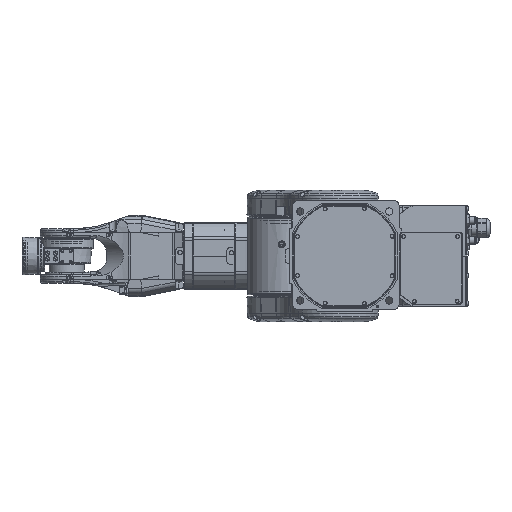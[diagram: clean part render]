
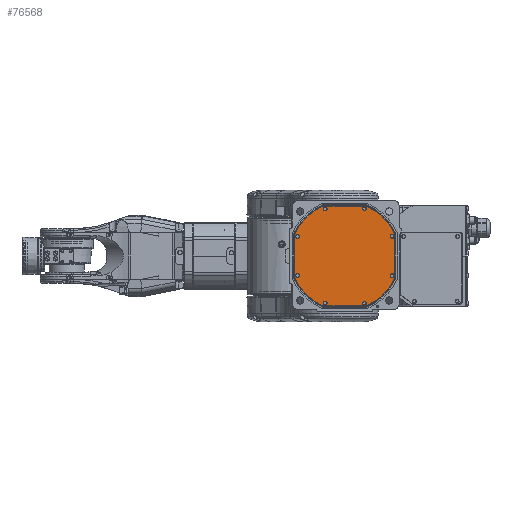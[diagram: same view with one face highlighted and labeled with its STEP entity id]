
A CAD part, front view. The second image highlights one B-rep face of the part: STEP entity #76568.
In plain terms, the highlighted planar face has unit normal (0, -1, 0).
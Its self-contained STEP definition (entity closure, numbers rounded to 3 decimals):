
#2304=CIRCLE('',#80409,4.7);
#2305=CIRCLE('',#80412,4.7);
#2306=CIRCLE('',#80414,97.7);
#2307=CIRCLE('',#80416,4.7);
#2308=CIRCLE('',#80419,4.7);
#2309=CIRCLE('',#80421,97.7);
#2310=CIRCLE('',#80423,4.7);
#2311=CIRCLE('',#80426,4.7);
#2312=CIRCLE('',#80428,97.7);
#2313=CIRCLE('',#80430,4.7);
#2314=CIRCLE('',#80433,4.7);
#2315=CIRCLE('',#80435,97.7);
#2316=CIRCLE('',#80437,3.4);
#2317=CIRCLE('',#80438,3.4);
#2318=CIRCLE('',#80439,3.4);
#2319=CIRCLE('',#80440,3.4);
#2320=CIRCLE('',#80441,3.4);
#2321=CIRCLE('',#80442,3.4);
#2322=CIRCLE('',#80443,3.4);
#2323=CIRCLE('',#80444,3.4);
#7452=ORIENTED_EDGE('',*,*,#22142,.F.);
#7453=ORIENTED_EDGE('',*,*,#22143,.F.);
#7454=ORIENTED_EDGE('',*,*,#22144,.F.);
#7455=ORIENTED_EDGE('',*,*,#22145,.F.);
#7456=ORIENTED_EDGE('',*,*,#22146,.F.);
#7457=ORIENTED_EDGE('',*,*,#22147,.F.);
#7458=ORIENTED_EDGE('',*,*,#22148,.F.);
#7459=ORIENTED_EDGE('',*,*,#22149,.F.);
#7460=ORIENTED_EDGE('',*,*,#22111,.F.);
#7461=ORIENTED_EDGE('',*,*,#22141,.F.);
#7462=ORIENTED_EDGE('',*,*,#22139,.F.);
#7463=ORIENTED_EDGE('',*,*,#22137,.F.);
#7464=ORIENTED_EDGE('',*,*,#22135,.F.);
#7465=ORIENTED_EDGE('',*,*,#22133,.F.);
#7466=ORIENTED_EDGE('',*,*,#22131,.F.);
#7467=ORIENTED_EDGE('',*,*,#22129,.F.);
#7468=ORIENTED_EDGE('',*,*,#22127,.F.);
#7469=ORIENTED_EDGE('',*,*,#22125,.F.);
#7470=ORIENTED_EDGE('',*,*,#22123,.F.);
#7471=ORIENTED_EDGE('',*,*,#22121,.F.);
#7472=ORIENTED_EDGE('',*,*,#22119,.F.);
#7473=ORIENTED_EDGE('',*,*,#22117,.F.);
#7474=ORIENTED_EDGE('',*,*,#22115,.F.);
#7475=ORIENTED_EDGE('',*,*,#22113,.F.);
#22111=EDGE_CURVE('',#29604,#29605,#2304,.T.);
#22113=EDGE_CURVE('',#29605,#29606,#34826,.T.);
#22115=EDGE_CURVE('',#29606,#29607,#2305,.T.);
#22117=EDGE_CURVE('',#29607,#29608,#2306,.T.);
#22119=EDGE_CURVE('',#29608,#29609,#2307,.T.);
#22121=EDGE_CURVE('',#29609,#29610,#34831,.T.);
#22123=EDGE_CURVE('',#29610,#29611,#2308,.T.);
#22125=EDGE_CURVE('',#29611,#29612,#2309,.T.);
#22127=EDGE_CURVE('',#29612,#29613,#2310,.T.);
#22129=EDGE_CURVE('',#29613,#29614,#34836,.T.);
#22131=EDGE_CURVE('',#29614,#29615,#2311,.T.);
#22133=EDGE_CURVE('',#29615,#29616,#2312,.T.);
#22135=EDGE_CURVE('',#29616,#29617,#2313,.T.);
#22137=EDGE_CURVE('',#29617,#29618,#34841,.T.);
#22139=EDGE_CURVE('',#29618,#29619,#2314,.T.);
#22141=EDGE_CURVE('',#29619,#29604,#2315,.T.);
#22142=EDGE_CURVE('',#29620,#29620,#2316,.T.);
#22143=EDGE_CURVE('',#29621,#29621,#2317,.T.);
#22144=EDGE_CURVE('',#29622,#29622,#2318,.T.);
#22145=EDGE_CURVE('',#29623,#29623,#2319,.T.);
#22146=EDGE_CURVE('',#29624,#29624,#2320,.T.);
#22147=EDGE_CURVE('',#29625,#29625,#2321,.T.);
#22148=EDGE_CURVE('',#29626,#29626,#2322,.T.);
#22149=EDGE_CURVE('',#29627,#29627,#2323,.T.);
#29604=VERTEX_POINT('',#105383);
#29605=VERTEX_POINT('',#105385);
#29606=VERTEX_POINT('',#105389);
#29607=VERTEX_POINT('',#105393);
#29608=VERTEX_POINT('',#105397);
#29609=VERTEX_POINT('',#105401);
#29610=VERTEX_POINT('',#105405);
#29611=VERTEX_POINT('',#105409);
#29612=VERTEX_POINT('',#105413);
#29613=VERTEX_POINT('',#105417);
#29614=VERTEX_POINT('',#105421);
#29615=VERTEX_POINT('',#105425);
#29616=VERTEX_POINT('',#105429);
#29617=VERTEX_POINT('',#105433);
#29618=VERTEX_POINT('',#105437);
#29619=VERTEX_POINT('',#105441);
#29620=VERTEX_POINT('',#105447);
#29621=VERTEX_POINT('',#105449);
#29622=VERTEX_POINT('',#105451);
#29623=VERTEX_POINT('',#105453);
#29624=VERTEX_POINT('',#105455);
#29625=VERTEX_POINT('',#105457);
#29626=VERTEX_POINT('',#105459);
#29627=VERTEX_POINT('',#105461);
#34826=LINE('',#105388,#39083);
#34831=LINE('',#105404,#39088);
#34836=LINE('',#105420,#39093);
#34841=LINE('',#105436,#39098);
#39083=VECTOR('',#88209,1000.);
#39088=VECTOR('',#88228,1000.);
#39093=VECTOR('',#88247,1000.);
#39098=VECTOR('',#88266,1000.);
#43126=EDGE_LOOP('',(#7452));
#43127=EDGE_LOOP('',(#7453));
#43128=EDGE_LOOP('',(#7454));
#43129=EDGE_LOOP('',(#7455));
#43130=EDGE_LOOP('',(#7456));
#43131=EDGE_LOOP('',(#7457));
#43132=EDGE_LOOP('',(#7458));
#43133=EDGE_LOOP('',(#7459));
#43134=EDGE_LOOP('',(#7460,#7461,#7462,#7463,#7464,#7465,#7466,#7467,#7468,
#7469,#7470,#7471,#7472,#7473,#7474,#7475));
#47457=FACE_BOUND('',#43126,.T.);
#47458=FACE_BOUND('',#43127,.T.);
#47459=FACE_BOUND('',#43128,.T.);
#47460=FACE_BOUND('',#43129,.T.);
#47461=FACE_BOUND('',#43130,.T.);
#47462=FACE_BOUND('',#43131,.T.);
#47463=FACE_BOUND('',#43132,.T.);
#47464=FACE_BOUND('',#43133,.T.);
#47465=FACE_BOUND('',#43134,.T.);
#51524=PLANE('',#80436);
#76568=ADVANCED_FACE('',(#47457,#47458,#47459,#47460,#47461,#47462,#47463,
#47464,#47465),#51524,.F.);
#80409=AXIS2_PLACEMENT_3D('',#105384,#88204,#88205);
#80412=AXIS2_PLACEMENT_3D('',#105392,#88213,#88214);
#80414=AXIS2_PLACEMENT_3D('',#105396,#88218,#88219);
#80416=AXIS2_PLACEMENT_3D('',#105400,#88223,#88224);
#80419=AXIS2_PLACEMENT_3D('',#105408,#88232,#88233);
#80421=AXIS2_PLACEMENT_3D('',#105412,#88237,#88238);
#80423=AXIS2_PLACEMENT_3D('',#105416,#88242,#88243);
#80426=AXIS2_PLACEMENT_3D('',#105424,#88251,#88252);
#80428=AXIS2_PLACEMENT_3D('',#105428,#88256,#88257);
#80430=AXIS2_PLACEMENT_3D('',#105432,#88261,#88262);
#80433=AXIS2_PLACEMENT_3D('',#105440,#88270,#88271);
#80435=AXIS2_PLACEMENT_3D('',#105444,#88275,#88276);
#80436=AXIS2_PLACEMENT_3D('',#105445,#88277,#88278);
#80437=AXIS2_PLACEMENT_3D('',#105446,#88279,#88280);
#80438=AXIS2_PLACEMENT_3D('',#105448,#88281,#88282);
#80439=AXIS2_PLACEMENT_3D('',#105450,#88283,#88284);
#80440=AXIS2_PLACEMENT_3D('',#105452,#88285,#88286);
#80441=AXIS2_PLACEMENT_3D('',#105454,#88287,#88288);
#80442=AXIS2_PLACEMENT_3D('',#105456,#88289,#88290);
#80443=AXIS2_PLACEMENT_3D('',#105458,#88291,#88292);
#80444=AXIS2_PLACEMENT_3D('',#105460,#88293,#88294);
#88204=DIRECTION('',(0.,1.,0.));
#88205=DIRECTION('',(0.,0.,1.));
#88209=DIRECTION('',(0.,0.,1.));
#88213=DIRECTION('',(0.,1.,0.));
#88214=DIRECTION('',(0.,0.,1.));
#88218=DIRECTION('',(0.,1.,0.));
#88219=DIRECTION('',(0.,0.,1.));
#88223=DIRECTION('',(0.,1.,0.));
#88224=DIRECTION('',(0.,0.,1.));
#88228=DIRECTION('',(1.,0.,0.));
#88232=DIRECTION('',(0.,1.,0.));
#88233=DIRECTION('',(0.,0.,1.));
#88237=DIRECTION('',(0.,1.,0.));
#88238=DIRECTION('',(0.,0.,1.));
#88242=DIRECTION('',(0.,1.,0.));
#88243=DIRECTION('',(0.,0.,1.));
#88247=DIRECTION('',(0.,0.,-1.));
#88251=DIRECTION('',(0.,1.,0.));
#88252=DIRECTION('',(0.,0.,1.));
#88256=DIRECTION('',(0.,1.,0.));
#88257=DIRECTION('',(0.,0.,1.));
#88261=DIRECTION('',(0.,1.,0.));
#88262=DIRECTION('',(0.,0.,1.));
#88266=DIRECTION('',(-1.,0.,0.));
#88270=DIRECTION('',(0.,1.,0.));
#88271=DIRECTION('',(0.,0.,1.));
#88275=DIRECTION('',(0.,1.,0.));
#88276=DIRECTION('',(0.,0.,1.));
#88277=DIRECTION('',(0.,1.,0.));
#88278=DIRECTION('',(0.,0.,1.));
#88279=DIRECTION('',(0.,-1.,0.));
#88280=DIRECTION('',(0.,0.,-1.));
#88281=DIRECTION('',(0.,-1.,0.));
#88282=DIRECTION('',(0.,0.,-1.));
#88283=DIRECTION('',(0.,-1.,0.));
#88284=DIRECTION('',(0.,0.,-1.));
#88285=DIRECTION('',(0.,-1.,0.));
#88286=DIRECTION('',(0.,0.,-1.));
#88287=DIRECTION('',(0.,-1.,0.));
#88288=DIRECTION('',(0.,0.,-1.));
#88289=DIRECTION('',(0.,-1.,0.));
#88290=DIRECTION('',(0.,0.,-1.));
#88291=DIRECTION('',(0.,-1.,0.));
#88292=DIRECTION('',(0.,0.,-1.));
#88293=DIRECTION('',(0.,-1.,0.));
#88294=DIRECTION('',(0.,0.,-1.));
#105383=CARTESIAN_POINT('',(-89.296,5.,-39.643));
#105384=CARTESIAN_POINT('',(-85.,5.,-37.736));
#105385=CARTESIAN_POINT('',(-89.7,5.,-37.736));
#105388=CARTESIAN_POINT('',(-89.7,5.,-37.736));
#105389=CARTESIAN_POINT('',(-89.7,5.,37.736));
#105392=CARTESIAN_POINT('',(-85.,5.,37.736));
#105393=CARTESIAN_POINT('',(-89.296,5.,39.643));
#105396=CARTESIAN_POINT('',(0.,5.,0.));
#105397=CARTESIAN_POINT('',(-39.643,5.,89.296));
#105400=CARTESIAN_POINT('',(-37.736,5.,85.));
#105401=CARTESIAN_POINT('',(-37.736,5.,89.7));
#105404=CARTESIAN_POINT('',(-85.,5.,89.7));
#105405=CARTESIAN_POINT('',(37.736,5.,89.7));
#105408=CARTESIAN_POINT('',(37.736,5.,85.));
#105409=CARTESIAN_POINT('',(39.643,5.,89.296));
#105412=CARTESIAN_POINT('',(0.,5.,0.));
#105413=CARTESIAN_POINT('',(89.296,5.,39.643));
#105416=CARTESIAN_POINT('',(85.,5.,37.736));
#105417=CARTESIAN_POINT('',(89.7,5.,37.736));
#105420=CARTESIAN_POINT('',(89.7,5.,-37.736));
#105421=CARTESIAN_POINT('',(89.7,5.,-37.736));
#105424=CARTESIAN_POINT('',(85.,5.,-37.736));
#105425=CARTESIAN_POINT('',(89.296,5.,-39.643));
#105428=CARTESIAN_POINT('',(0.,5.,0.));
#105429=CARTESIAN_POINT('',(39.643,5.,-89.296));
#105432=CARTESIAN_POINT('',(37.736,5.,-85.));
#105433=CARTESIAN_POINT('',(37.736,5.,-89.7));
#105436=CARTESIAN_POINT('',(-85.,5.,-89.7));
#105437=CARTESIAN_POINT('',(-37.736,5.,-89.7));
#105440=CARTESIAN_POINT('',(-37.736,5.,-85.));
#105441=CARTESIAN_POINT('',(-39.643,5.,-89.296));
#105444=CARTESIAN_POINT('',(0.,5.,0.));
#105445=CARTESIAN_POINT('',(-85.,5.,-37.736));
#105446=CARTESIAN_POINT('',(35.207,5.,-84.997));
#105447=CARTESIAN_POINT('',(35.207,5.,-88.397));
#105448=CARTESIAN_POINT('',(84.997,5.,-35.207));
#105449=CARTESIAN_POINT('',(84.997,5.,-38.607));
#105450=CARTESIAN_POINT('',(84.997,5.,35.207));
#105451=CARTESIAN_POINT('',(84.997,5.,31.807));
#105452=CARTESIAN_POINT('',(35.207,5.,84.997));
#105453=CARTESIAN_POINT('',(35.207,5.,81.597));
#105454=CARTESIAN_POINT('',(-35.207,5.,84.997));
#105455=CARTESIAN_POINT('',(-35.207,5.,81.597));
#105456=CARTESIAN_POINT('',(-84.997,5.,35.207));
#105457=CARTESIAN_POINT('',(-84.997,5.,31.807));
#105458=CARTESIAN_POINT('',(-84.997,5.,-35.207));
#105459=CARTESIAN_POINT('',(-84.997,5.,-38.607));
#105460=CARTESIAN_POINT('',(-35.207,5.,-84.997));
#105461=CARTESIAN_POINT('',(-35.207,5.,-88.397));
